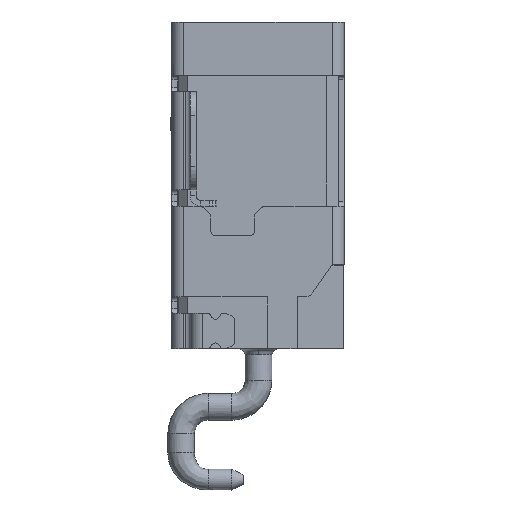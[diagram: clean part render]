
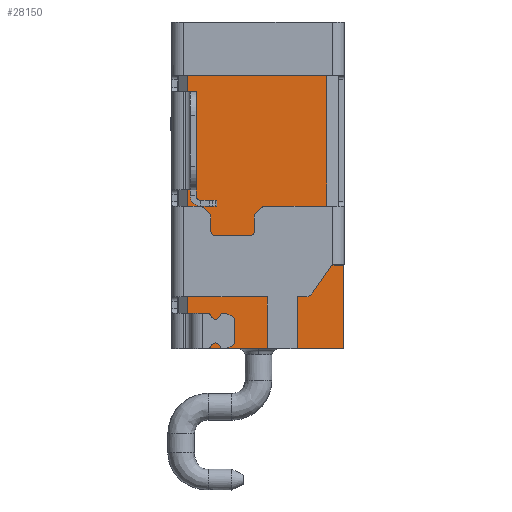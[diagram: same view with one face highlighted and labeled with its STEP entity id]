
A CAD part, left-side view. The second image highlights one B-rep face of the part: STEP entity #28150.
In plain terms, the highlighted planar face has unit normal (-1, 0, 0).
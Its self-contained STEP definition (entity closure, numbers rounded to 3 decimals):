
#476 = VERTEX_POINT ( 'NONE', #1726 ) ;
#576 = DIRECTION ( 'NONE',  ( 0., -1., 0. ) ) ;
#719 = DIRECTION ( 'NONE',  ( 0., 0., 1. ) ) ;
#1196 = VECTOR ( 'NONE', #7166, 1000. ) ;
#1602 = LINE ( 'NONE', #29798, #4695 ) ;
#1726 = CARTESIAN_POINT ( 'NONE',  ( -3.3, -2.85, 2.82 ) ) ;
#1763 = DIRECTION ( 'NONE',  ( 0., 0., -1. ) ) ;
#1950 = ORIENTED_EDGE ( 'NONE', *, *, #20274, .F. ) ;
#2108 = EDGE_CURVE ( 'NONE', #24846, #29448, #11851, .T. ) ;
#2215 = CARTESIAN_POINT ( 'NONE',  ( -3.3, -0.4, 9.2 ) ) ;
#2497 = CARTESIAN_POINT ( 'NONE',  ( -3.3, -2.85, 2.82 ) ) ;
#2515 = CARTESIAN_POINT ( 'NONE',  ( -3.3, -2.3, 10.6 ) ) ;
#2575 = EDGE_CURVE ( 'NONE', #9735, #30314, #24757, .T. ) ;
#2693 = ORIENTED_EDGE ( 'NONE', *, *, #8656, .T. ) ;
#3378 = ORIENTED_EDGE ( 'NONE', *, *, #8337, .T. ) ;
#3474 = VERTEX_POINT ( 'NONE', #8135 ) ;
#3550 = VERTEX_POINT ( 'NONE', #18812 ) ;
#3700 = LINE ( 'NONE', #6378, #32983 ) ;
#4139 = LINE ( 'NONE', #21169, #16285 ) ;
#4238 = EDGE_CURVE ( 'NONE', #21111, #13647, #11168, .T. ) ;
#4418 = DIRECTION ( 'NONE',  ( 0., 0., -1. ) ) ;
#4695 = VECTOR ( 'NONE', #4418, 1000. ) ;
#5249 = VECTOR ( 'NONE', #30253, 1000. ) ;
#5741 = DIRECTION ( 'NONE',  ( -1., 0., 0. ) ) ;
#5845 = CARTESIAN_POINT ( 'NONE',  ( -3.3, 2.4, 10.6 ) ) ;
#6378 = CARTESIAN_POINT ( 'NONE',  ( -3.3, -0.3, 3.75 ) ) ;
#6987 = ORIENTED_EDGE ( 'NONE', *, *, #17316, .T. ) ;
#6995 = DIRECTION ( 'NONE',  ( 0., 0., -1. ) ) ;
#7166 = DIRECTION ( 'NONE',  ( 0., 1., 0. ) ) ;
#7749 = VECTOR ( 'NONE', #22192, 1000. ) ;
#7925 = AXIS2_PLACEMENT_3D ( 'NONE', #8403, #5741, #18579 ) ;
#8135 = CARTESIAN_POINT ( 'NONE',  ( -3.3, 2.4, 0. ) ) ;
#8337 = EDGE_CURVE ( 'NONE', #20488, #9735, #1602, .T. ) ;
#8368 = CARTESIAN_POINT ( 'NONE',  ( -3.3, -1.3, 3.75 ) ) ;
#8403 = CARTESIAN_POINT ( 'NONE',  ( -3.3, 2.7, 0. ) ) ;
#8656 = EDGE_CURVE ( 'NONE', #17130, #29448, #27759, .T. ) ;
#8723 = VECTOR ( 'NONE', #32207, 1000. ) ;
#8977 = DIRECTION ( 'NONE',  ( 0., -1., 0. ) ) ;
#9048 = CARTESIAN_POINT ( 'NONE',  ( -3.3, -2.85, 0. ) ) ;
#9730 = CARTESIAN_POINT ( 'NONE',  ( -3.3, 0.4, 10.6 ) ) ;
#9735 = VERTEX_POINT ( 'NONE', #26135 ) ;
#9886 = DIRECTION ( 'NONE',  ( 0., 1., 0. ) ) ;
#9922 = LINE ( 'NONE', #12431, #18186 ) ;
#10605 = ORIENTED_EDGE ( 'NONE', *, *, #20400, .F. ) ;
#11168 = LINE ( 'NONE', #21671, #20078 ) ;
#11532 = VECTOR ( 'NONE', #6995, 1000. ) ;
#11830 = LINE ( 'NONE', #17340, #11532 ) ;
#11851 = LINE ( 'NONE', #22026, #7749 ) ;
#11872 = ORIENTED_EDGE ( 'NONE', *, *, #2575, .T. ) ;
#11989 = VECTOR ( 'NONE', #9886, 1000. ) ;
#12431 = CARTESIAN_POINT ( 'NONE',  ( -3.3, 0.4, 10.6 ) ) ;
#12674 = CARTESIAN_POINT ( 'NONE',  ( -3.3, -0.3, 0. ) ) ;
#13413 = CARTESIAN_POINT ( 'NONE',  ( -3.3, -0.3, 0. ) ) ;
#13612 = ORIENTED_EDGE ( 'NONE', *, *, #18002, .T. ) ;
#13647 = VERTEX_POINT ( 'NONE', #2515 ) ;
#13655 = ORIENTED_EDGE ( 'NONE', *, *, #2108, .F. ) ;
#14142 = ORIENTED_EDGE ( 'NONE', *, *, #26902, .T. ) ;
#14395 = ORIENTED_EDGE ( 'NONE', *, *, #18159, .T. ) ;
#15673 = VECTOR ( 'NONE', #18511, 1000. ) ;
#16285 = VECTOR ( 'NONE', #8977, 1000. ) ;
#16415 = PLANE ( 'NONE',  #7925 ) ;
#17034 = DIRECTION ( 'NONE',  ( 0., -1., 0. ) ) ;
#17130 = VERTEX_POINT ( 'NONE', #8368 ) ;
#17316 = EDGE_CURVE ( 'NONE', #476, #21111, #27868, .T. ) ;
#17340 = CARTESIAN_POINT ( 'NONE',  ( -3.3, -2.85, 2.82 ) ) ;
#17905 = CARTESIAN_POINT ( 'NONE',  ( -3.3, -1.3, 3.75 ) ) ;
#18002 = EDGE_CURVE ( 'NONE', #3474, #21442, #24053, .T. ) ;
#18159 = EDGE_CURVE ( 'NONE', #30846, #3474, #18341, .T. ) ;
#18186 = VECTOR ( 'NONE', #1763, 1000. ) ;
#18341 = LINE ( 'NONE', #5845, #15673 ) ;
#18511 = DIRECTION ( 'NONE',  ( 0., 0., -1. ) ) ;
#18579 = DIRECTION ( 'NONE',  ( 0., 0., 1. ) ) ;
#18699 = EDGE_CURVE ( 'NONE', #21442, #3550, #28601, .T. ) ;
#18812 = CARTESIAN_POINT ( 'NONE',  ( -3.3, -0.3, 3.75 ) ) ;
#20078 = VECTOR ( 'NONE', #29193, 1000. ) ;
#20274 = EDGE_CURVE ( 'NONE', #30846, #30584, #21576, .T. ) ;
#20400 = EDGE_CURVE ( 'NONE', #20488, #13647, #4139, .T. ) ;
#20488 = VERTEX_POINT ( 'NONE', #27497 ) ;
#20969 = ORIENTED_EDGE ( 'NONE', *, *, #21365, .F. ) ;
#20996 = CARTESIAN_POINT ( 'NONE',  ( -3.3, 0.4, 9.2 ) ) ;
#21111 = VERTEX_POINT ( 'NONE', #23535 ) ;
#21169 = CARTESIAN_POINT ( 'NONE',  ( -3.3, -0.4, 10.6 ) ) ;
#21365 = EDGE_CURVE ( 'NONE', #476, #24846, #11830, .T. ) ;
#21442 = VERTEX_POINT ( 'NONE', #12674 ) ;
#21576 = LINE ( 'NONE', #28608, #30671 ) ;
#21671 = CARTESIAN_POINT ( 'NONE',  ( -3.3, -2.3, 2.82 ) ) ;
#22026 = CARTESIAN_POINT ( 'NONE',  ( -3.3, -2.85, 0. ) ) ;
#22192 = DIRECTION ( 'NONE',  ( 0., 1., 0. ) ) ;
#23535 = CARTESIAN_POINT ( 'NONE',  ( -3.3, -2.3, 2.82 ) ) ;
#24053 = LINE ( 'NONE', #26563, #8723 ) ;
#24757 = LINE ( 'NONE', #2215, #11989 ) ;
#24846 = VERTEX_POINT ( 'NONE', #9048 ) ;
#26135 = CARTESIAN_POINT ( 'NONE',  ( -3.3, -0.4, 9.2 ) ) ;
#26563 = CARTESIAN_POINT ( 'NONE',  ( -3.3, 2.4, 0. ) ) ;
#26902 = EDGE_CURVE ( 'NONE', #3550, #17130, #3700, .T. ) ;
#27402 = VECTOR ( 'NONE', #719, 1000. ) ;
#27497 = CARTESIAN_POINT ( 'NONE',  ( -3.3, -0.4, 10.6 ) ) ;
#27573 = ORIENTED_EDGE ( 'NONE', *, *, #4238, .T. ) ;
#27669 = CARTESIAN_POINT ( 'NONE',  ( -3.3, -1.3, 0. ) ) ;
#27759 = LINE ( 'NONE', #17905, #5249 ) ;
#27868 = LINE ( 'NONE', #2497, #1196 ) ;
#27959 = CARTESIAN_POINT ( 'NONE',  ( -3.3, 2.4, 10.6 ) ) ;
#28150 = ADVANCED_FACE ( 'NONE', ( #29083 ), #16415, .T. ) ;
#28601 = LINE ( 'NONE', #13413, #27402 ) ;
#28608 = CARTESIAN_POINT ( 'NONE',  ( -3.3, 2.4, 10.6 ) ) ;
#29083 = FACE_OUTER_BOUND ( 'NONE', #29942, .T. ) ;
#29193 = DIRECTION ( 'NONE',  ( 0., 0., 1. ) ) ;
#29448 = VERTEX_POINT ( 'NONE', #27669 ) ;
#29524 = ORIENTED_EDGE ( 'NONE', *, *, #31969, .F. ) ;
#29798 = CARTESIAN_POINT ( 'NONE',  ( -3.3, -0.4, 10.6 ) ) ;
#29942 = EDGE_LOOP ( 'NONE', ( #27573, #10605, #3378, #11872, #29524, #1950, #14395, #13612, #30502, #14142, #2693, #13655, #20969, #6987 ) ) ;
#30253 = DIRECTION ( 'NONE',  ( 0., 0., -1. ) ) ;
#30314 = VERTEX_POINT ( 'NONE', #20996 ) ;
#30502 = ORIENTED_EDGE ( 'NONE', *, *, #18699, .T. ) ;
#30584 = VERTEX_POINT ( 'NONE', #9730 ) ;
#30671 = VECTOR ( 'NONE', #576, 1000. ) ;
#30846 = VERTEX_POINT ( 'NONE', #27959 ) ;
#31969 = EDGE_CURVE ( 'NONE', #30584, #30314, #9922, .T. ) ;
#32207 = DIRECTION ( 'NONE',  ( 0., -1., 0. ) ) ;
#32983 = VECTOR ( 'NONE', #17034, 1000. ) ;
